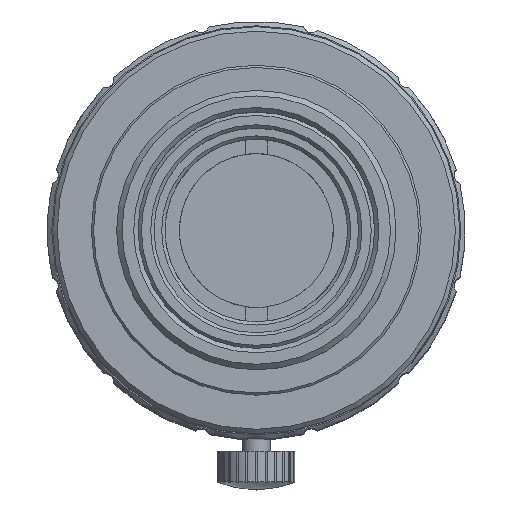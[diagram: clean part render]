
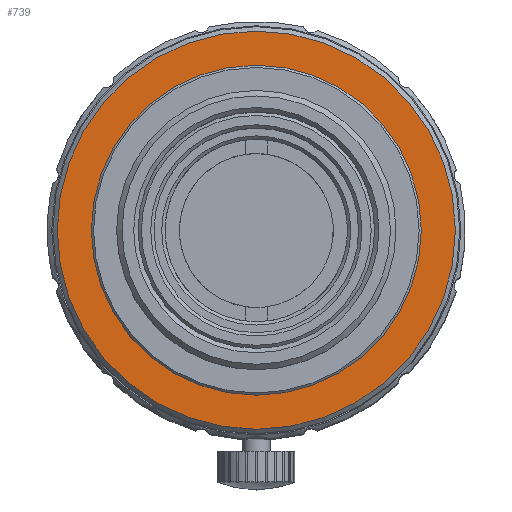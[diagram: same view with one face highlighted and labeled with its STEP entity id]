
A CAD part, top view. The second image highlights one B-rep face of the part: STEP entity #739.
In plain terms, the highlighted planar face has unit normal (0, 0, 1).
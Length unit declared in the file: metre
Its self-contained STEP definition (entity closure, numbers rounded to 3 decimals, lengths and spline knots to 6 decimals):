
#739=ADVANCED_FACE('11:2878',(#1543,#1544),#1545,.T.);
#1543=FACE_OUTER_BOUND('',#2373,.T.);
#1544=FACE_BOUND('',#2374,.T.);
#1545=PLANE('',#2375);
#2373=EDGE_LOOP('',(#4411));
#2374=EDGE_LOOP('',(#4412));
#2375=AXIS2_PLACEMENT_3D('',#4413,#4414,#4415);
#4411=ORIENTED_EDGE('',*,*,#5378,.T.);
#4412=ORIENTED_EDGE('',*,*,#5374,.F.);
#4413=CARTESIAN_POINT('',(0.0,0.0,0.0));
#4414=DIRECTION('',(0.0,0.0,1.0));
#4415=DIRECTION('',(1.0,0.0,0.0));
#5374=EDGE_CURVE('11:3841',#6580,#6580,#6581,.T.);
#5378=EDGE_CURVE('11:3844',#6587,#6587,#6588,.T.);
#6580=VERTEX_POINT('',#10599);
#6581=CIRCLE('',#10600,0.015);
#6587=VERTEX_POINT('',#10606);
#6588=CIRCLE('',#10607,0.0181);
#10599=CARTESIAN_POINT('',(0.015,0.0,0.0));
#10600=AXIS2_PLACEMENT_3D('',#11424,#11425,#11426);
#10606=CARTESIAN_POINT('',(0.0181,0.0,0.0));
#10607=AXIS2_PLACEMENT_3D('',#11433,#11434,#11435);
#11424=CARTESIAN_POINT('',(0.0,0.0,0.0));
#11425=DIRECTION('',(0.0,0.0,1.0));
#11426=DIRECTION('',(1.0,0.0,-0.0));
#11433=CARTESIAN_POINT('',(0.0,0.0,0.0));
#11434=DIRECTION('',(0.0,0.0,1.0));
#11435=DIRECTION('',(1.0,0.0,-0.0));
